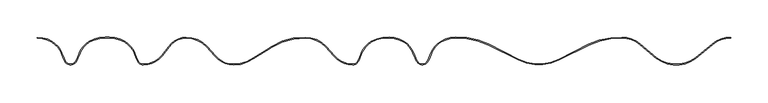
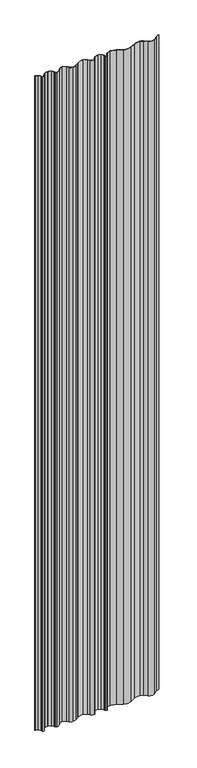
"""IFC4 building model written with IfcOpenShell, lengths in millimetres: plate geometry, Ritmica Couverture 928  : Ritmica Couverture 928 ."""

from ifc_helpers import new_model, si_unit, frame, origin, place, context, project, spatial, polyline, circle_curve, source, transform, mapped, element, save
from ifc_brep_helpers import plane_surface, cylinder_surface, revolved_surface, advanced_brep


def plate_113459ed(model_context):
    return source(origin(), model_context, "Body", "AdvancedBrep", [
        advanced_brep(
        [(-444.4302446, 30.2811672, 5176.3809021), (-431.9836286, 15.5283219, 5176.3809021), (-429.1046615, 8.3328787, 5176.3809021), (-427.4452979, 4.8677923, 5176.3809021), (-411.4637013, 4.8619753, 5176.3809021), (-409.8018157, 8.3258528, 5176.3809021), (-406.9176114, 15.5191984, 5176.3809021), (-394.4602592, 30.2629791, 5176.3809021), (-373.3665492, 36.0482488, 5176.3809021), (-368.0278773, 36.0482488, 5176.3809021), (-346.9383844, 30.2456821, 5176.3809021), (-334.4917684, 15.4928368, 5176.3809021), (-331.6128013, 8.2973936, 5176.3809021), (-329.9534377, 4.8323072, 5176.3809021), (-321.9644706, -0.2017286, 5176.3809021), (-296.9888452, 11.8248101, 5176.3809021), (-287.4386892, 23.807533, 5176.3809021), (-264.9602063, 35.7855504, 5176.3809021), (-237.4962028, 23.7813753, 5176.3809021), (-226.3924296, 11.7911348, 5176.3809021), (-201.4255657, -0.253582, 5176.3809021), (-174.6923281, 8.160429, 5176.3809021), (-157.3593244, 19.2912838, 5176.3809021), (-149.9257866, 23.6861251, 5176.3809021), (-105.747615, 35.8686526, 5176.3809021), (-78.2836116, 23.8644776, 5176.3809021), (-67.1798385, 11.8742372, 5176.3809021), (-42.2097646, -0.1704801, 5176.3809021), (-34.2203451, 4.857739, 5176.3809021), (-32.5584593, 8.3216167, 5176.3809021), (-29.674242, 15.5149945, 5176.3809021), (-17.2169044, 30.2587419, 5176.3809021), (6.5461114, 35.9566723, 5176.3809021), (26.0848579, 30.4474107, 5176.3809021), (38.5314739, 15.6945655, 5176.3809021), (41.410441, 8.4991222, 5176.3809021), (43.0698047, 5.0340358, 5176.3809021), (59.0514012, 5.0282188, 5176.3809021), (60.7132869, 8.4920964, 5176.3809021), (63.5974912, 15.6854419, 5176.3809021), (76.0548434, 30.4292226, 5176.3809021), (95.5975949, 35.9242593, 5176.3809021), (139.3425473, 26.7427576, 5176.3809021), (179.8736188, 6.3460909, 5176.3809021), (233.7774888, 6.326471, 5176.3809021), (274.3233975, 26.6936273, 5176.3809021), (318.0750221, 35.843282, 5176.3809021), (341.83917, 27.2314209, 5176.3809021), (364.2633956, 8.5356297, 5176.3809021), (417.1208498, 8.5163906, 5176.3809021), (439.8609935, 27.195853, 5176.3809021), (463.6317682, 35.7904123, 5176.3809021), (463.6317682, 36.7904124, 5176.3809021), (439.2211878, 27.9643897, 5176.3809021), (416.5014094, 9.3018814, 5176.3809021), (364.8834077, 9.3206693, 5176.3809021), (342.479535, 27.9994916, 5176.3809021), (318.0931528, 36.8432713, 5176.3809021), (273.882295, 27.5911262, 5176.3809021), (233.3286151, 7.2200662, 5176.3809021), (180.3231429, 7.2393591, 5176.3809021), (139.7843031, 27.6399351, 5176.3809021), (95.5801931, 36.9242616, 5176.3809021), (75.5333761, 31.2824939, 5176.3809021), (62.6692321, 16.0573763, 5176.3809021), (59.7974032, 8.8948956, 5176.3809021), (58.1497994, 5.4607858, 5176.3809021), (43.9717211, 5.4659464, 5176.3809021), (42.3266177, 8.9012546, 5176.3809021), (39.4600035, 16.065824, 5176.3809021), (26.6069462, 31.3003021, 5176.3809021), (6.5788504, 36.9566468, 5176.3809021), (-17.7328786, 31.1153693, 5176.3809021), (-30.6024869, 15.8869639, 5176.3809021), (-33.4743429, 8.724416, 5176.3809021), (-35.1219469, 5.290306, 5176.3809021), (-42.2097628, 0.8295199, 5176.3809021), (-66.4203948, 12.5259117, 5176.3809021), (-77.5499027, 24.5439416, 5176.3809021), (-105.7362544, 36.868647, 5176.3809021), (-150.4460781, 24.5402159, 5176.3809021), (-157.8841427, 20.1426983, 5176.3809021), (-175.2477974, 8.9921601, 5176.3809021), (-201.4270073, 0.7464186, 5176.3809021), (-225.6330756, 12.4429063, 5176.3809021), (-236.7624939, 24.4608393, 5176.3809021), (-264.9598423, 36.7855503, 5176.3809021), (-288.2459339, 24.3991366, 5176.3809021), (-297.7708595, 12.4480706, 5176.3809021), (-321.9641067, 0.7982713, 5176.3809021), (-329.0515212, 5.2642178, 5176.3809021), (-330.6966247, 8.699526, 5176.3809021), (-333.5638307, 15.8655747, 5176.3809021), (-346.4204051, 31.1011119, 5176.3809021), (-368.0275134, 37.0463056, 5176.3809021), (-373.3663683, 37.0482488, 5176.3809021), (-394.9762369, 31.1196045, 5176.3809021), (-407.8458704, 15.8911327, 5176.3809021), (-410.7176994, 8.7286521, 5176.3809021), (-412.3653031, 5.2945423, 5176.3809021), (-426.5433815, 5.2997028, 5176.3809021), (-428.1884849, 8.7350111, 5176.3809021), (-431.0550991, 15.8995804, 5176.3809021), (-443.9081563, 31.1340586, 5176.3809021), (-463.9686268, 36.7904286, 5176.3809021), (-463.9686268, 35.7904286, 5176.3809021), (-444.4302446, 30.2811672, 0.0), (-463.9686268, 35.7904286, 0.0), (-463.9686268, 36.7904286, 0.0), (-443.9081563, 31.1340586, 0.0), (-431.0550991, 15.8995804, 0.0), (-428.1884849, 8.7350111, 0.0), (-426.5433815, 5.2997028, 0.0), (-412.3653031, 5.2945423, 0.0), (-410.7176994, 8.7286521, 0.0), (-407.8458704, 15.8911327, 0.0), (-394.9762369, 31.1196045, 0.0), (-373.3663683, 37.0482488, 0.0), (-368.0278773, 37.0482488, 0.0), (-346.4204051, 31.1011119, 0.0), (-333.5638307, 15.8655747, 0.0), (-330.6966247, 8.699526, 0.0), (-329.0515212, 5.2642178, 0.0), (-321.9641067, 0.7982713, 0.0), (-297.7708595, 12.4480706, 0.0), (-288.2459339, 24.3991366, 0.0), (-264.9598423, 36.7855503, 0.0), (-236.7624939, 24.4608393, 0.0), (-225.6330756, 12.4429063, 0.0), (-201.4270073, 0.7464186, 0.0), (-175.2477974, 8.9921601, 0.0), (-157.8841427, 20.1426983, 0.0), (-150.4460781, 24.5402159, 0.0), (-105.7362544, 36.868647, 0.0), (-77.5499027, 24.5439416, 0.0), (-66.4203948, 12.5259117, 0.0), (-42.2097628, 0.8295199, 0.0), (-35.1219469, 5.290306, 0.0), (-33.4743429, 8.724416, 0.0), (-30.6024869, 15.8869639, 0.0), (-17.7328786, 31.1153693, 0.0), (6.5788504, 36.9566468, 0.0), (26.6069462, 31.3003021, 0.0), (39.4600035, 16.065824, 0.0), (42.3266177, 8.9012546, 0.0), (43.9717211, 5.4659464, 0.0), (58.1497994, 5.4607858, 0.0), (59.7974032, 8.8948956, 0.0), (62.6692321, 16.0573763, 0.0), (75.5333761, 31.2824939, 0.0), (95.5801931, 36.9242616, 0.0), (139.7843031, 27.6399351, 0.0), (180.3231429, 7.2393591, 0.0), (233.3286151, 7.2200662, 0.0), (273.882295, 27.5911262, 0.0), (318.0931528, 36.8432713, 0.0), (342.479535, 27.9994916, 0.0), (364.8834077, 9.3206693, 0.0), (416.5014094, 9.3018814, 0.0), (439.2211878, 27.9643897, 0.0), (463.6317682, 36.7904124, 0.0), (463.6317682, 35.7904123, 0.0), (439.8609935, 27.195853, 0.0), (417.1208498, 8.5163906, 0.0), (364.2633956, 8.5356297, 0.0), (341.83917, 27.2314209, 0.0), (318.0750221, 35.843282, 0.0), (274.3233975, 26.6936273, 0.0), (233.7774888, 6.326471, 0.0), (179.8736188, 6.3460909, 0.0), (139.3425473, 26.7427576, 0.0), (95.5975949, 35.9242593, 0.0), (76.0548434, 30.4292226, 0.0), (63.5974912, 15.6854419, 0.0), (60.7132869, 8.4920964, 0.0), (59.0514012, 5.0282188, 0.0), (43.0698047, 5.0340358, 0.0), (41.410441, 8.4991222, 0.0), (38.5314739, 15.6945655, 0.0), (26.0848579, 30.4474107, 0.0), (6.5461114, 35.9566723, 0.0), (-17.2169044, 30.2587419, 0.0), (-29.674242, 15.5149945, 0.0), (-32.5584593, 8.3216167, 0.0), (-34.2203451, 4.857739, 0.0), (-42.2097646, -0.1704801, 0.0), (-67.1798385, 11.8742372, 0.0), (-78.2836116, 23.8644776, 0.0), (-105.747615, 35.8686526, 0.0), (-149.9257866, 23.6861251, 0.0), (-157.3593244, 19.2912838, 0.0), (-174.6923281, 8.160429, 0.0), (-201.4255657, -0.253582, 0.0), (-226.3924296, 11.7911348, 0.0), (-237.4962028, 23.7813753, 0.0), (-264.9602063, 35.7855504, 0.0), (-287.4386892, 23.807533, 0.0), (-296.9888452, 11.8248101, 0.0), (-321.9644706, -0.2017286, 0.0), (-329.9534377, 4.8323072, 0.0), (-331.6128013, 8.2973936, 0.0), (-334.4917684, 15.4928368, 0.0), (-346.9383844, 30.2456821, 0.0), (-368.0278773, 36.0463056, 0.0), (-373.3665492, 36.0482488, 0.0), (-394.4602592, 30.2629791, 0.0), (-406.9176114, 15.5191984, 0.0), (-409.8018157, 8.3258528, 0.0), (-411.4637013, 4.8619753, 0.0), (-427.4452979, 4.8677923, 0.0), (-429.1046615, 8.3328787, 0.0), (-431.9836286, 15.5283219, 0.0)],
        [
            (0, 1, circle_curve(frame((-460.4148551, 4.1684649, 5176.3809021), z_axis=(0.0, 0.0, -1.0), x_axis=(-1.0, 0.0, 0.0)), 30.6166783)),
            (1, 2),
            (2, 3),
            (3, 4, circle_curve(frame((-419.4531055, 8.6951004, 5176.3809021), z_axis=(0.0, 0.0, 1.0), x_axis=(-1.0, 0.0, 0.0)), 8.8613445)),
            (4, 5),
            (5, 6),
            (6, 7, circle_curve(frame((-378.4946619, 4.1386476, 5176.3809021), z_axis=(0.0, 0.0, -1.0), x_axis=(-1.0, 0.0, 0.0)), 30.6166783)),
            (7, 8, circle_curve(frame((-373.381579, -5.2445433, 5176.3809021), z_axis=(0.0, 0.0, -1.0), x_axis=(-1.0, 0.0, 0.0)), 41.2927949)),
            (8, 9),
            (9, 10, circle_curve(frame((-368.0429071, -5.2464865, 5176.3809021), z_axis=(0.0, 0.0, -1.0), x_axis=(-1.0, 0.0, 0.0)), 41.2927949)),
            (10, 11, circle_curve(frame((-363.1637949, 3.9298228, 5176.3809021), z_axis=(0.0, 0.0, -1.0), x_axis=(-1.0, 0.0, 0.0)), 30.9158276)),
            (11, 12),
            (12, 13),
            (13, 14, circle_curve(frame((-321.9612453, 8.6596153, 5176.3809021), z_axis=(0.0, 0.0, 1.0), x_axis=(-1.0, 0.0, 0.0)), 8.8613445)),
            (14, 15, circle_curve(frame((-321.9528514, 31.7209684, 5176.3809021), z_axis=(0.0, 0.0, 1.0), x_axis=(-1.0, 0.0, 0.0)), 31.9226992)),
            (15, 16),
            (16, 17, circle_curve(frame((-264.9700565, 8.722964, 5176.3809021), z_axis=(0.0, 0.0, -1.0), x_axis=(-1.0, 0.0, 0.0)), 27.0625882)),
            (17, 18, circle_curve(frame((-264.9738374, -1.6647716, 5176.3809021), z_axis=(0.0, 0.0, -1.0), x_axis=(-1.0, 0.0, 0.0)), 37.4503244)),
            (18, 19),
            (19, 20, circle_curve(frame((-201.4139464, 31.669115, 5176.3809021), z_axis=(0.0, 0.0, 1.0), x_axis=(-1.0, 0.0, 0.0)), 31.9226992)),
            (20, 21, circle_curve(frame((-201.5791622, 46.9102404, 5176.3809021), z_axis=(0.0, 0.0, 1.0), x_axis=(-1.0, 0.0, 0.0)), 47.1640725)),
            (21, 22),
            (22, 23),
            (23, 24, circle_curve(frame((-107.5247522, -43.880951, 5176.3809021), z_axis=(0.0, 0.0, -1.0), x_axis=(-1.0, 0.0, 0.0)), 79.769402)),
            (24, 25, circle_curve(frame((-105.7612462, -1.5816693, 5176.3809021), z_axis=(0.0, 0.0, -1.0), x_axis=(-1.0, 0.0, 0.0)), 37.4503244)),
            (25, 26),
            (26, 27, circle_curve(frame((-42.2097086, 31.7349015, 5176.3809021), z_axis=(0.0, 0.0, 1.0), x_axis=(-1.0, 0.0, 0.0)), 31.9053816)),
            (27, 28, circle_curve(frame((-42.209749, 8.6908643, 5176.3809021), z_axis=(0.0, 0.0, 1.0), x_axis=(-1.0, 0.0, 0.0)), 8.8613444)),
            (28, 29),
            (29, 30),
            (30, 31, circle_curve(frame((-1.2513055, 4.1344114, 5176.3809021), z_axis=(0.0, 0.0, -1.0), x_axis=(-1.0, 0.0, 0.0)), 30.6166783)),
            (31, 32, circle_curve(frame((3.8617775, -5.2487796, 5176.3809021), z_axis=(0.0, 0.0, -1.0), x_axis=(-1.0, 0.0, 0.0)), 41.2927948)),
            (32, 33, circle_curve(frame((6.5324806, -1.4936497, 5176.3809021), z_axis=(0.0, 0.0, -1.0), x_axis=(-1.0, 0.0, 0.0)), 37.4503244)),
            (33, 34, circle_curve(frame((10.1002475, 4.3347085, 5176.3809021), z_axis=(0.0, 0.0, -1.0), x_axis=(-1.0, 0.0, 0.0)), 30.6166783)),
            (34, 35),
            (35, 36),
            (36, 37, circle_curve(frame((51.0619971, 8.861344, 5176.3809021), z_axis=(0.0, 0.0, 1.0), x_axis=(-1.0, 0.0, 0.0)), 8.8613445)),
            (37, 38),
            (38, 39),
            (39, 40, circle_curve(frame((92.0204406, 4.3048912, 5176.3809021), z_axis=(0.0, 0.0, -1.0), x_axis=(-1.0, 0.0, 0.0)), 30.6166783)),
            (40, 41, circle_curve(frame((95.5839638, -1.5260626, 5176.3809021), z_axis=(0.0, 0.0, -1.0), x_axis=(-1.0, 0.0, 0.0)), 37.4503244)),
            (41, 42, circle_curve(frame((98.8645428, -57.3118982, 5176.3809021), z_axis=(0.0, 0.0, -1.0), x_axis=(-1.0, 0.0, 0.0)), 93.293376)),
            (42, 43),
            (43, 44, circle_curve(frame((206.8450653, 59.9421829, 5176.3809021), z_axis=(0.0, 0.0, 1.0), x_axis=(-1.0, 0.0, 0.0)), 60.0)),
            (44, 45),
            (45, 46, circle_curve(frame((314.7402029, -57.3904726, 5176.3809021), z_axis=(0.0, 0.0, -1.0), x_axis=(-1.0, 0.0, 0.0)), 93.293376)),
            (46, 47, circle_curve(frame((318.061507, -1.2881358, 5176.3809021), z_axis=(0.0, 0.0, -1.0), x_axis=(-1.0, 0.0, 0.0)), 37.1314203)),
            (47, 48),
            (48, 49, circle_curve(frame((390.7049909, 43.8801828, 5176.3809021), z_axis=(0.0, 0.0, 1.0), x_axis=(-1.0, 0.0, 0.0)), 44.1406321)),
            (49, 50),
            (50, 51, circle_curve(frame((463.6178891, -1.3410054, 5176.3809021), z_axis=(0.0, 0.0, -1.0), x_axis=(-1.0, 0.0, 0.0)), 37.1314203)),
            (51, 52),
            (52, 53, circle_curve(frame((463.6178891, -1.3410054, 5176.3809021), z_axis=(0.0, 0.0, 1.0), x_axis=(-1.0, 0.0, 0.0)), 38.1314203)),
            (53, 54),
            (54, 55, circle_curve(frame((390.7049909, 43.8801828, 5176.3809021), z_axis=(0.0, 0.0, -1.0), x_axis=(-1.0, 0.0, 0.0)), 43.1406321)),
            (55, 56),
            (56, 57, circle_curve(frame((318.061507, -1.2881358, 5176.3809021), z_axis=(0.0, 0.0, 1.0), x_axis=(-1.0, 0.0, 0.0)), 38.1314203)),
            (57, 58, circle_curve(frame((314.7402029, -57.3904726, 5176.3809021), z_axis=(0.0, 0.0, 1.0), x_axis=(-1.0, 0.0, 0.0)), 94.293376)),
            (58, 59),
            (59, 60, circle_curve(frame((206.8450653, 59.9421829, 5176.3809021), z_axis=(0.0, 0.0, -1.0), x_axis=(-1.0, 0.0, 0.0)), 59.0)),
            (60, 61),
            (61, 62, circle_curve(frame((98.8645428, -57.3118982, 5176.3809021), z_axis=(0.0, 0.0, 1.0), x_axis=(-1.0, 0.0, 0.0)), 94.293376)),
            (62, 63, circle_curve(frame((95.5839638, -1.5260626, 5176.3809021), z_axis=(0.0, 0.0, 1.0), x_axis=(-1.0, 0.0, 0.0)), 38.4503244)),
            (63, 64, circle_curve(frame((92.0204406, 4.3048912, 5176.3809021), z_axis=(0.0, 0.0, 1.0), x_axis=(-1.0, 0.0, 0.0)), 31.6166783)),
            (64, 65),
            (65, 66),
            (66, 67, circle_curve(frame((51.0619971, 8.861344, 5176.3809021), z_axis=(0.0, 0.0, -1.0), x_axis=(-1.0, 0.0, 0.0)), 7.8613445)),
            (67, 68),
            (68, 69),
            (69, 70, circle_curve(frame((10.1002475, 4.3347085, 5176.3809021), z_axis=(0.0, 0.0, 1.0), x_axis=(-1.0, 0.0, 0.0)), 31.6166783)),
            (70, 71, circle_curve(frame((6.5324806, -1.4936497, 5176.3809021), z_axis=(0.0, 0.0, 1.0), x_axis=(-1.0, 0.0, 0.0)), 38.4503244)),
            (71, 72, circle_curve(frame((3.8617775, -5.2487796, 5176.3809021), z_axis=(0.0, 0.0, 1.0), x_axis=(-1.0, 0.0, 0.0)), 42.2927948)),
            (72, 73, circle_curve(frame((-1.2513055, 4.1344114, 5176.3809021), z_axis=(0.0, 0.0, 1.0), x_axis=(-1.0, 0.0, 0.0)), 31.6166782)),
            (73, 74),
            (74, 75),
            (75, 76, circle_curve(frame((-42.209749, 8.6908643, 5176.3809021), z_axis=(0.0, 0.0, -1.0), x_axis=(-1.0, 0.0, 0.0)), 7.8613444)),
            (76, 77, circle_curve(frame((-42.2097086, 31.7349015, 5176.3809021), z_axis=(0.0, 0.0, -1.0), x_axis=(-1.0, 0.0, 0.0)), 30.9053816)),
            (77, 78),
            (78, 79, circle_curve(frame((-105.7612462, -1.5816693, 5176.3809021), z_axis=(0.0, 0.0, 1.0), x_axis=(-1.0, 0.0, 0.0)), 38.4503244)),
            (79, 80, circle_curve(frame((-107.5247522, -43.880951, 5176.3809021), z_axis=(0.0, 0.0, 1.0), x_axis=(-1.0, 0.0, 0.0)), 80.769402)),
            (80, 81),
            (81, 82),
            (82, 83, circle_curve(frame((-201.5791622, 46.9102404, 5176.3809021), z_axis=(0.0, 0.0, -1.0), x_axis=(-1.0, 0.0, 0.0)), 46.1640725)),
            (83, 84, circle_curve(frame((-201.4139464, 31.669115, 5176.3809021), z_axis=(0.0, 0.0, -1.0), x_axis=(-1.0, 0.0, 0.0)), 30.9226992)),
            (84, 85),
            (85, 86, circle_curve(frame((-264.9738374, -1.6647716, 5176.3809021), z_axis=(0.0, 0.0, 1.0), x_axis=(-1.0, 0.0, 0.0)), 38.4503244)),
            (86, 87, circle_curve(frame((-264.9700565, 8.722964, 5176.3809021), z_axis=(0.0, 0.0, 1.0), x_axis=(-1.0, 0.0, 0.0)), 28.0625882)),
            (87, 88),
            (88, 89, circle_curve(frame((-321.9528514, 31.7209684, 5176.3809021), z_axis=(0.0, 0.0, -1.0), x_axis=(-1.0, 0.0, 0.0)), 30.9226992)),
            (89, 90, circle_curve(frame((-321.9612453, 8.6596153, 5176.3809021), z_axis=(0.0, 0.0, -1.0), x_axis=(-1.0, 0.0, 0.0)), 7.8613445)),
            (90, 91),
            (91, 92),
            (92, 93, circle_curve(frame((-363.1637949, 3.9298228, 5176.3809021), z_axis=(0.0, 0.0, 1.0), x_axis=(-1.0, 0.0, 0.0)), 31.9158276)),
            (93, 94, circle_curve(frame((-368.0429071, -5.2464865, 5176.3809021), z_axis=(0.0, 0.0, 1.0), x_axis=(-1.0, 0.0, 0.0)), 42.2927949)),
            (94, 95),
            (95, 96, circle_curve(frame((-373.381579, -5.2445433, 5176.3809021), z_axis=(0.0, 0.0, 1.0), x_axis=(-1.0, 0.0, 0.0)), 42.2927949)),
            (96, 97, circle_curve(frame((-378.4946619, 4.1386476, 5176.3809021), z_axis=(0.0, 0.0, 1.0), x_axis=(-1.0, 0.0, 0.0)), 31.6166783)),
            (97, 98),
            (98, 99),
            (99, 100, circle_curve(frame((-419.4531055, 8.6951004, 5176.3809021), z_axis=(0.0, 0.0, -1.0), x_axis=(-1.0, 0.0, 0.0)), 7.8613445)),
            (100, 101),
            (101, 102),
            (102, 103, circle_curve(frame((-460.4148551, 4.1684649, 5176.3809021), z_axis=(0.0, 0.0, 1.0), x_axis=(-1.0, 0.0, 0.0)), 31.6166783)),
            (103, 104, circle_curve(frame((-463.982622, -1.6598932, 5176.3809021), z_axis=(0.0, 0.0, 1.0), x_axis=(-1.0, 0.0, 0.0)), 38.4503244)),
            (104, 105),
            (105, 0, circle_curve(frame((-463.982622, -1.6598932, 5176.3809021), z_axis=(0.0, 0.0, -1.0), x_axis=(-1.0, 0.0, 0.0)), 37.4503244)),
            (106, 107, circle_curve(frame((-463.982622, -1.6598932, 0.0), z_axis=(0.0, 0.0, 1.0), x_axis=(-1.0, 0.0, 0.0)), 37.4503244)),
            (107, 108),
            (108, 109, circle_curve(frame((-463.982622, -1.6598932, 0.0), z_axis=(0.0, 0.0, -1.0), x_axis=(-1.0, 0.0, 0.0)), 38.4503244)),
            (109, 110, circle_curve(frame((-460.4148551, 4.1684649, 0.0), z_axis=(0.0, 0.0, -1.0), x_axis=(-1.0, 0.0, 0.0)), 31.6166783)),
            (110, 111),
            (111, 112),
            (112, 113, circle_curve(frame((-419.4531055, 8.6951004, 0.0), z_axis=(0.0, 0.0, 1.0), x_axis=(-1.0, 0.0, 0.0)), 7.8613445)),
            (113, 114),
            (114, 115),
            (115, 116, circle_curve(frame((-378.4946619, 4.1386476, 0.0), z_axis=(0.0, 0.0, -1.0), x_axis=(-1.0, 0.0, 0.0)), 31.6166783)),
            (116, 117, circle_curve(frame((-373.381579, -5.2445433, 0.0), z_axis=(0.0, 0.0, -1.0), x_axis=(-1.0, 0.0, 0.0)), 42.2927949)),
            (117, 118),
            (118, 119, circle_curve(frame((-368.0429071, -5.2464865, 0.0), z_axis=(0.0, 0.0, -1.0), x_axis=(-1.0, 0.0, 0.0)), 42.2927949)),
            (119, 120, circle_curve(frame((-363.1637949, 3.9298228, 0.0), z_axis=(0.0, 0.0, -1.0), x_axis=(-1.0, 0.0, 0.0)), 31.9158276)),
            (120, 121),
            (121, 122),
            (122, 123, circle_curve(frame((-321.9612453, 8.6596153, 0.0), z_axis=(0.0, 0.0, 1.0), x_axis=(-1.0, 0.0, 0.0)), 7.8613445)),
            (123, 124, circle_curve(frame((-321.9528514, 31.7209684, 0.0), z_axis=(0.0, 0.0, 1.0), x_axis=(-1.0, 0.0, 0.0)), 30.9226992)),
            (124, 125),
            (125, 126, circle_curve(frame((-264.9700565, 8.722964, 0.0), z_axis=(0.0, 0.0, -1.0), x_axis=(-1.0, 0.0, 0.0)), 28.0625882)),
            (126, 127, circle_curve(frame((-264.9738374, -1.6647716, 0.0), z_axis=(0.0, 0.0, -1.0), x_axis=(-1.0, 0.0, 0.0)), 38.4503244)),
            (127, 128),
            (128, 129, circle_curve(frame((-201.4139464, 31.669115, 0.0), z_axis=(0.0, 0.0, 1.0), x_axis=(-1.0, 0.0, 0.0)), 30.9226992)),
            (129, 130, circle_curve(frame((-201.5791622, 46.9102404, 0.0), z_axis=(0.0, 0.0, 1.0), x_axis=(-1.0, 0.0, 0.0)), 46.1640725)),
            (130, 131),
            (131, 132),
            (132, 133, circle_curve(frame((-107.5247522, -43.880951, 0.0), z_axis=(0.0, 0.0, -1.0), x_axis=(-1.0, 0.0, 0.0)), 80.769402)),
            (133, 134, circle_curve(frame((-105.7612462, -1.5816693, 0.0), z_axis=(0.0, 0.0, -1.0), x_axis=(-1.0, 0.0, 0.0)), 38.4503244)),
            (134, 135),
            (135, 136, circle_curve(frame((-42.2097086, 31.7349015, 0.0), z_axis=(0.0, 0.0, 1.0), x_axis=(-1.0, 0.0, 0.0)), 30.9053816)),
            (136, 137, circle_curve(frame((-42.209749, 8.6908643, 0.0), z_axis=(0.0, 0.0, 1.0), x_axis=(-1.0, 0.0, 0.0)), 7.8613444)),
            (137, 138),
            (138, 139),
            (139, 140, circle_curve(frame((-1.2513055, 4.1344114, 0.0), z_axis=(0.0, 0.0, -1.0), x_axis=(-1.0, 0.0, 0.0)), 31.6166782)),
            (140, 141, circle_curve(frame((3.8617775, -5.2487796, 0.0), z_axis=(0.0, 0.0, -1.0), x_axis=(-1.0, 0.0, 0.0)), 42.2927948)),
            (141, 142, circle_curve(frame((6.5324806, -1.4936497, 0.0), z_axis=(0.0, 0.0, -1.0), x_axis=(-1.0, 0.0, 0.0)), 38.4503244)),
            (142, 143, circle_curve(frame((10.1002475, 4.3347085, 0.0), z_axis=(0.0, 0.0, -1.0), x_axis=(-1.0, 0.0, 0.0)), 31.6166783)),
            (143, 144),
            (144, 145),
            (145, 146, circle_curve(frame((51.0619971, 8.861344, 0.0), z_axis=(0.0, 0.0, 1.0), x_axis=(-1.0, 0.0, 0.0)), 7.8613445)),
            (146, 147),
            (147, 148),
            (148, 149, circle_curve(frame((92.0204406, 4.3048912, 0.0), z_axis=(0.0, 0.0, -1.0), x_axis=(-1.0, 0.0, 0.0)), 31.6166783)),
            (149, 150, circle_curve(frame((95.5839638, -1.5260626, 0.0), z_axis=(0.0, 0.0, -1.0), x_axis=(-1.0, 0.0, 0.0)), 38.4503244)),
            (150, 151, circle_curve(frame((98.8645428, -57.3118982, 0.0), z_axis=(0.0, 0.0, -1.0), x_axis=(-1.0, 0.0, 0.0)), 94.293376)),
            (151, 152),
            (152, 153, circle_curve(frame((206.8450653, 59.9421829, 0.0), z_axis=(0.0, 0.0, 1.0), x_axis=(-1.0, 0.0, 0.0)), 59.0)),
            (153, 154),
            (154, 155, circle_curve(frame((314.7402029, -57.3904726, 0.0), z_axis=(0.0, 0.0, -1.0), x_axis=(-1.0, 0.0, 0.0)), 94.293376)),
            (155, 156, circle_curve(frame((318.061507, -1.2881358, 0.0), z_axis=(0.0, 0.0, -1.0), x_axis=(-1.0, 0.0, 0.0)), 38.1314203)),
            (156, 157),
            (157, 158, circle_curve(frame((390.7049909, 43.8801828, 0.0), z_axis=(0.0, 0.0, 1.0), x_axis=(-1.0, 0.0, 0.0)), 43.1406321)),
            (158, 159),
            (159, 160, circle_curve(frame((463.6178891, -1.3410054, 0.0), z_axis=(0.0, 0.0, -1.0), x_axis=(-1.0, 0.0, 0.0)), 38.1314203)),
            (160, 161),
            (161, 162, circle_curve(frame((463.6178891, -1.3410054, 0.0), z_axis=(0.0, 0.0, 1.0), x_axis=(-1.0, 0.0, 0.0)), 37.1314203)),
            (162, 163),
            (163, 164, circle_curve(frame((390.7049909, 43.8801828, 0.0), z_axis=(0.0, 0.0, -1.0), x_axis=(-1.0, 0.0, 0.0)), 44.1406321)),
            (164, 165),
            (165, 166, circle_curve(frame((318.061507, -1.2881358, 0.0), z_axis=(0.0, 0.0, 1.0), x_axis=(-1.0, 0.0, 0.0)), 37.1314203)),
            (166, 167, circle_curve(frame((314.7402029, -57.3904726, 0.0), z_axis=(0.0, 0.0, 1.0), x_axis=(-1.0, 0.0, 0.0)), 93.293376)),
            (167, 168),
            (168, 169, circle_curve(frame((206.8450653, 59.9421829, 0.0), z_axis=(0.0, 0.0, -1.0), x_axis=(-1.0, 0.0, 0.0)), 60.0)),
            (169, 170),
            (170, 171, circle_curve(frame((98.8645428, -57.3118982, 0.0), z_axis=(0.0, 0.0, 1.0), x_axis=(-1.0, 0.0, 0.0)), 93.293376)),
            (171, 172, circle_curve(frame((95.5839638, -1.5260626, 0.0), z_axis=(0.0, 0.0, 1.0), x_axis=(-1.0, 0.0, 0.0)), 37.4503244)),
            (172, 173, circle_curve(frame((92.0204406, 4.3048912, 0.0), z_axis=(0.0, 0.0, 1.0), x_axis=(-1.0, 0.0, 0.0)), 30.6166783)),
            (173, 174),
            (174, 175),
            (175, 176, circle_curve(frame((51.0619971, 8.861344, 0.0), z_axis=(0.0, 0.0, -1.0), x_axis=(-1.0, 0.0, 0.0)), 8.8613445)),
            (176, 177),
            (177, 178),
            (178, 179, circle_curve(frame((10.1002475, 4.3347085, 0.0), z_axis=(0.0, 0.0, 1.0), x_axis=(-1.0, 0.0, 0.0)), 30.6166783)),
            (179, 180, circle_curve(frame((6.5324806, -1.4936497, 0.0), z_axis=(0.0, 0.0, 1.0), x_axis=(-1.0, 0.0, 0.0)), 37.4503244)),
            (180, 181, circle_curve(frame((3.8617775, -5.2487796, 0.0), z_axis=(0.0, 0.0, 1.0), x_axis=(-1.0, 0.0, 0.0)), 41.2927948)),
            (181, 182, circle_curve(frame((-1.2513055, 4.1344114, 0.0), z_axis=(0.0, 0.0, 1.0), x_axis=(-1.0, 0.0, 0.0)), 30.6166783)),
            (182, 183),
            (183, 184),
            (184, 185, circle_curve(frame((-42.209749, 8.6908643, 0.0), z_axis=(0.0, 0.0, -1.0), x_axis=(-1.0, 0.0, 0.0)), 8.8613444)),
            (185, 186, circle_curve(frame((-42.2097086, 31.7349015, 0.0), z_axis=(0.0, 0.0, -1.0), x_axis=(-1.0, 0.0, 0.0)), 31.9053816)),
            (186, 187),
            (187, 188, circle_curve(frame((-105.7612462, -1.5816693, 0.0), z_axis=(0.0, 0.0, 1.0), x_axis=(-1.0, 0.0, 0.0)), 37.4503244)),
            (188, 189, circle_curve(frame((-107.5247522, -43.880951, 0.0), z_axis=(0.0, 0.0, 1.0), x_axis=(-1.0, 0.0, 0.0)), 79.769402)),
            (189, 190),
            (190, 191),
            (191, 192, circle_curve(frame((-201.5791622, 46.9102404, 0.0), z_axis=(0.0, 0.0, -1.0), x_axis=(-1.0, 0.0, 0.0)), 47.1640725)),
            (192, 193, circle_curve(frame((-201.4139464, 31.669115, 0.0), z_axis=(0.0, 0.0, -1.0), x_axis=(-1.0, 0.0, 0.0)), 31.9226992)),
            (193, 194),
            (194, 195, circle_curve(frame((-264.9738374, -1.6647716, 0.0), z_axis=(0.0, 0.0, 1.0), x_axis=(-1.0, 0.0, 0.0)), 37.4503244)),
            (195, 196, circle_curve(frame((-264.9700565, 8.722964, 0.0), z_axis=(0.0, 0.0, 1.0), x_axis=(-1.0, 0.0, 0.0)), 27.0625882)),
            (196, 197),
            (197, 198, circle_curve(frame((-321.9528514, 31.7209684, 0.0), z_axis=(0.0, 0.0, -1.0), x_axis=(-1.0, 0.0, 0.0)), 31.9226992)),
            (198, 199, circle_curve(frame((-321.9612453, 8.6596153, 0.0), z_axis=(0.0, 0.0, -1.0), x_axis=(-1.0, 0.0, 0.0)), 8.8613445)),
            (199, 200),
            (200, 201),
            (201, 202, circle_curve(frame((-363.1637949, 3.9298228, 0.0), z_axis=(0.0, 0.0, 1.0), x_axis=(-1.0, 0.0, 0.0)), 30.9158276)),
            (202, 203, circle_curve(frame((-368.0429071, -5.2464865, 0.0), z_axis=(0.0, 0.0, 1.0), x_axis=(-1.0, 0.0, 0.0)), 41.2927949)),
            (203, 204),
            (204, 205, circle_curve(frame((-373.381579, -5.2445433, 0.0), z_axis=(0.0, 0.0, 1.0), x_axis=(-1.0, 0.0, 0.0)), 41.2927949)),
            (205, 206, circle_curve(frame((-378.4946619, 4.1386476, 0.0), z_axis=(0.0, 0.0, 1.0), x_axis=(-1.0, 0.0, 0.0)), 30.6166783)),
            (206, 207),
            (207, 208),
            (208, 209, circle_curve(frame((-419.4531055, 8.6951004, 0.0), z_axis=(0.0, 0.0, -1.0), x_axis=(-1.0, 0.0, 0.0)), 8.8613445)),
            (209, 210),
            (210, 211),
            (211, 106, circle_curve(frame((-460.4148551, 4.1684649, 0.0), z_axis=(0.0, 0.0, 1.0), x_axis=(-1.0, 0.0, 0.0)), 30.6166783)),
            (0, 106),
            (211, 1),
            (210, 2),
            (209, 3),
            (208, 4),
            (207, 5),
            (206, 6),
            (205, 7),
            (204, 8),
            (203, 9),
            (202, 10),
            (201, 11),
            (200, 12),
            (199, 13),
            (198, 14),
            (197, 15),
            (196, 16),
            (195, 17),
            (194, 18),
            (193, 19),
            (192, 20),
            (191, 21),
            (190, 22),
            (189, 23),
            (188, 24),
            (187, 25),
            (186, 26),
            (185, 27),
            (184, 28),
            (183, 29),
            (182, 30),
            (181, 31),
            (180, 32),
            (179, 33),
            (178, 34),
            (177, 35),
            (176, 36),
            (175, 37),
            (174, 38),
            (173, 39),
            (172, 40),
            (171, 41),
            (170, 42),
            (169, 43),
            (168, 44),
            (167, 45),
            (166, 46),
            (165, 47),
            (164, 48),
            (163, 49),
            (162, 50),
            (161, 51),
            (160, 52),
            (159, 53),
            (158, 54),
            (157, 55),
            (156, 56),
            (155, 57),
            (154, 58),
            (153, 59),
            (152, 60),
            (151, 61),
            (150, 62),
            (149, 63),
            (148, 64),
            (147, 65),
            (146, 66),
            (145, 67),
            (144, 68),
            (143, 69),
            (142, 70),
            (141, 71),
            (140, 72),
            (139, 73),
            (138, 74),
            (137, 75),
            (136, 76),
            (135, 77),
            (134, 78),
            (133, 79),
            (132, 80),
            (131, 81),
            (130, 82),
            (129, 83),
            (128, 84),
            (127, 85),
            (126, 86),
            (125, 87),
            (124, 88),
            (123, 89),
            (122, 90),
            (121, 91),
            (120, 92),
            (119, 93),
            (118, 94),
            (117, 95),
            (116, 96),
            (115, 97),
            (114, 98),
            (113, 99),
            (112, 100),
            (111, 101),
            (110, 102),
            (109, 103),
            (108, 104),
            (107, 105),
        ],
        [
            plane_surface(frame((-491.0315334, 4.1684649, 5176.3809021), z_axis=(0.0, 0.0, 1.0), x_axis=(0.0, 1.0, 0.0))),
            plane_surface(frame((-491.0315334, 4.1684649, 0.0), z_axis=(0.0, 0.0, -1.0), x_axis=(0.0, -1.0, 0.0))),
            revolved_surface(polyline([(-491.0315334, 4.1684649, 0.0), (-491.0315334, 4.1684649, 5176.3809021)]), (-460.4148551, 4.1684649, 0.0), (0.0, 0.0, -1.0)),
            plane_surface(frame((-431.9836286, 15.5283219, 5176.3809021), z_axis=(-0.9284415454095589, -0.3714785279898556, 0.0), x_axis=(0.0, 0.0, -1.0))),
            plane_surface(frame((-429.1046615, 8.3328787, 5176.3809021), z_axis=(-0.9019164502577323, -0.43191054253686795, 0.0), x_axis=(0.0, 0.0, -1.0))),
            cylinder_surface(frame((-419.4531055, 8.6951004, 0.0), z_axis=(0.0, 0.0, 1.0), x_axis=(-1.0, 0.0, 0.0)), 8.8613445),
            plane_surface(frame((-411.4637013, 4.8619753, 5176.3809021), z_axis=(0.9016017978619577, -0.43256698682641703, 0.0), x_axis=(0.0, 0.0, -1.0))),
            plane_surface(frame((-409.8018157, 8.3258528, 5176.3809021), z_axis=(0.9281708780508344, -0.3721542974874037, 0.0), x_axis=(0.0, 0.0, -1.0))),
            revolved_surface(polyline([(-409.1113402, 4.1386476, 0.0), (-409.1113402, 4.1386476, 5176.3809021)]), (-378.4946619, 4.1386476, 0.0), (0.0, 0.0, -1.0)),
            revolved_surface(polyline([(-414.6743739, -5.2445433, 0.0), (-414.6743739, -5.2445433, 5176.3809021)]), (-373.381579, -5.2445433, 0.0), (0.0, 0.0, -1.0)),
            plane_surface(frame((-373.3665492, 36.0482488, 5176.3809021), z_axis=(0.0, -1.0, 0.0), x_axis=(0.0, 0.0, -1.0))),
            revolved_surface(polyline([(-409.33570199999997, -5.2464865, 0.0), (-409.33570199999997, -5.2464865, 5176.3809021)]), (-368.0429071, -5.2464865, 0.0), (0.0, 0.0, -1.0)),
            revolved_surface(polyline([(-394.0796225, 3.9298228, 0.0), (-394.0796225, 3.9298228, 5176.3809021)]), (-363.1637949, 3.9298228, 0.0), (0.0, 0.0, -1.0)),
            plane_surface(frame((-334.4917684, 15.4928368, 5176.3809021), z_axis=(-0.9284415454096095, -0.37147852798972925, 0.0), x_axis=(0.0, 0.0, -1.0))),
            plane_surface(frame((-331.6128013, 8.2973936, 5176.3809021), z_axis=(-0.901916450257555, -0.4319105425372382, 0.0), x_axis=(0.0, 0.0, -1.0))),
            cylinder_surface(frame((-321.9612453, 8.6596153, 0.0), z_axis=(0.0, 0.0, 1.0), x_axis=(-1.0, 0.0, 0.0)), 8.8613445),
            cylinder_surface(frame((-321.9528514, 31.7209684, 0.0), z_axis=(0.0, 0.0, 1.0), x_axis=(-1.0, 0.0, 0.0)), 31.9226992),
            plane_surface(frame((-296.9888452, 11.8248101, 5176.3809021), z_axis=(0.7820142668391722, -0.6232605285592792, 0.0), x_axis=(0.0, 0.0, -1.0))),
            revolved_surface(polyline([(-292.0326447, 8.722964, 0.0), (-292.0326447, 8.722964, 5176.3809021)]), (-264.9700565, 8.722964, 0.0), (0.0, 0.0, -1.0)),
            revolved_surface(polyline([(-302.4241618, -1.6647716, 0.0), (-302.4241618, -1.6647716, 5176.3809021)]), (-264.9738374, -1.6647716, 0.0), (0.0, 0.0, -1.0)),
            plane_surface(frame((-237.4962028, 23.7813753, 5176.3809021), z_axis=(-0.7337088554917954, -0.6794639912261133, 0.0), x_axis=(0.0, 0.0, -1.0))),
            cylinder_surface(frame((-201.4139464, 31.669115, 0.0), z_axis=(0.0, 0.0, 1.0), x_axis=(-1.0, 0.0, 0.0)), 31.9226992),
            cylinder_surface(frame((-201.5791622, 46.9102404, 0.0), z_axis=(0.0, 0.0, 1.0), x_axis=(-1.0, 0.0, 0.0)), 47.1640725),
            plane_surface(frame((-174.6923281, 8.160429, 5176.3809021), z_axis=(0.5403525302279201, -0.8414387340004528, 0.0), x_axis=(0.0, 0.0, -1.0))),
            plane_surface(frame((-157.3593244, 19.2912838, 5176.3809021), z_axis=(0.5089263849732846, -0.8608100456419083, 0.0), x_axis=(0.0, 0.0, -1.0))),
            revolved_surface(polyline([(-187.29415419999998, -43.880951, 0.0), (-187.29415419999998, -43.880951, 5176.3809021)]), (-107.5247522, -43.880951, 0.0), (0.0, 0.0, -1.0)),
            revolved_surface(polyline([(-143.21157060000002, -1.5816693, 0.0), (-143.21157060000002, -1.5816693, 5176.3809021)]), (-105.7612462, -1.5816693, 0.0), (0.0, 0.0, -1.0)),
            plane_surface(frame((-78.2836116, 23.8644776, 5176.3809021), z_axis=(-0.7337088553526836, -0.679463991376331, 0.0), x_axis=(0.0, 0.0, -1.0))),
            cylinder_surface(frame((-42.2097086, 31.7349015, 0.0), z_axis=(0.0, 0.0, 1.0), x_axis=(-1.0, 0.0, 0.0)), 31.9053816),
            cylinder_surface(frame((-42.209749, 8.6908643, 0.0), z_axis=(0.0, 0.0, 1.0), x_axis=(-1.0, 0.0, 0.0)), 8.8613444),
            plane_surface(frame((-34.2203451, 4.857739, 5176.3809021), z_axis=(0.9016017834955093, -0.4325670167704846, 0.0), x_axis=(0.0, 0.0, -1.0))),
            plane_surface(frame((-32.5584593, 8.3216167, 5176.3809021), z_axis=(0.9281708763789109, -0.37215430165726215, 0.0), x_axis=(0.0, 0.0, -1.0))),
            revolved_surface(polyline([(-31.8679838, 4.1344114, 0.0), (-31.8679838, 4.1344114, 5176.3809021)]), (-1.2513055, 4.1344114, 0.0), (0.0, 0.0, -1.0)),
            revolved_surface(polyline([(-37.4310173, -5.2487796, 0.0), (-37.4310173, -5.2487796, 5176.3809021)]), (3.8617775, -5.2487796, 0.0), (0.0, 0.0, -1.0)),
            revolved_surface(polyline([(-30.9178438, -1.4936497, 0.0), (-30.9178438, -1.4936497, 5176.3809021)]), (6.5324806, -1.4936497, 0.0), (0.0, 0.0, -1.0)),
            revolved_surface(polyline([(-20.516430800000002, 4.3347085, 0.0), (-20.516430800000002, 4.3347085, 5176.3809021)]), (10.1002475, 4.3347085, 0.0), (0.0, 0.0, -1.0)),
            plane_surface(frame((38.5314739, 15.6945655, 5176.3809021), z_axis=(-0.9284415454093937, -0.3714785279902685, 0.0), x_axis=(0.0, 0.0, -1.0))),
            plane_surface(frame((41.410441, 8.4991222, 5176.3809021), z_axis=(-0.9019164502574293, -0.4319105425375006, 0.0), x_axis=(0.0, 0.0, -1.0))),
            cylinder_surface(frame((51.0619971, 8.861344, 0.0), z_axis=(0.0, 0.0, 1.0), x_axis=(-1.0, 0.0, 0.0)), 8.8613445),
            plane_surface(frame((59.0514012, 5.0282188, 5176.3809021), z_axis=(0.9016017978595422, -0.4325669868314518, 0.0), x_axis=(0.0, 0.0, -1.0))),
            plane_surface(frame((60.7132869, 8.4920964, 5176.3809021), z_axis=(0.9281708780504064, -0.37215429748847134, 0.0), x_axis=(0.0, 0.0, -1.0))),
            revolved_surface(polyline([(61.4037623, 4.3048912, 0.0), (61.4037623, 4.3048912, 5176.3809021)]), (92.0204406, 4.3048912, 0.0), (0.0, 0.0, -1.0)),
            revolved_surface(polyline([(58.13363940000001, -1.5260626, 0.0), (58.13363940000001, -1.5260626, 5176.3809021)]), (95.5839638, -1.5260626, 0.0), (0.0, 0.0, -1.0)),
            revolved_surface(polyline([(5.5711668, -57.3118982, 0.0), (5.5711668, -57.3118982, 5176.3809021)]), (98.8645428, -57.3118982, 0.0), (0.0, 0.0, -1.0)),
            plane_surface(frame((139.3425473, 26.7427576, 5176.3809021), z_axis=(-0.4495241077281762, -0.8932681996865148, 0.0), x_axis=(0.0, 0.0, -1.0))),
            cylinder_surface(frame((206.8450653, 59.9421829, 0.0), z_axis=(0.0, 0.0, 1.0), x_axis=(-1.0, 0.0, 0.0)), 60.0),
            plane_surface(frame((233.7774888, 6.326471, 5176.3809021), z_axis=(0.4488737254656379, -0.8935951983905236, 0.0), x_axis=(0.0, 0.0, -1.0))),
            revolved_surface(polyline([(221.4468269, -57.3904726, 0.0), (221.4468269, -57.3904726, 5176.3809021)]), (314.7402029, -57.3904726, 0.0), (0.0, 0.0, -1.0)),
            revolved_surface(polyline([(280.9300867, -1.2881358, 0.0), (280.9300867, -1.2881358, 5176.3809021)]), (318.061507, -1.2881358, 0.0), (0.0, 0.0, -1.0)),
            plane_surface(frame((341.83917, 27.2314209, 5176.3809021), z_axis=(-0.6403650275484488, -0.7680707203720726, 0.0), x_axis=(0.0, 0.0, -1.0))),
            cylinder_surface(frame((390.7049909, 43.8801828, 0.0), z_axis=(0.0, 0.0, 1.0), x_axis=(-1.0, 0.0, 0.0)), 44.1406321),
            plane_surface(frame((417.1208498, 8.5163906, 5176.3809021), z_axis=(0.6347406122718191, -0.7727252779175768, 0.0), x_axis=(0.0, 0.0, -1.0))),
            revolved_surface(polyline([(426.4864688, -1.3410054, 0.0), (426.4864688, -1.3410054, 5176.3809021)]), (463.6178891, -1.3410054, 0.0), (0.0, 0.0, -1.0)),
            plane_surface(frame((463.6317682, 35.7904123, 5176.3809021), z_axis=(1.0, 0.0, 0.0), x_axis=(0.0, 0.0, -1.0))),
            cylinder_surface(frame((463.6178891, -1.3410054, 0.0), z_axis=(0.0, 0.0, 1.0), x_axis=(-1.0, 0.0, 0.0)), 38.1314203),
            plane_surface(frame((439.2211878, 27.9643897, 5176.3809021), z_axis=(-0.6347360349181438, 0.7727290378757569, 0.0), x_axis=(0.0, 0.0, -1.0))),
            revolved_surface(polyline([(347.5643588, 43.8801828, 0.0), (347.5643588, 43.8801828, 5176.3809021)]), (390.7049909, 43.8801828, 0.0), (0.0, 0.0, -1.0)),
            plane_surface(frame((364.8834077, 9.3206693, 5176.3809021), z_axis=(0.6403650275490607, 0.7680707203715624, 0.0), x_axis=(0.0, 0.0, -1.0))),
            cylinder_surface(frame((318.061507, -1.2881358, 0.0), z_axis=(0.0, 0.0, 1.0), x_axis=(-1.0, 0.0, 0.0)), 38.1314203),
            cylinder_surface(frame((314.7402029, -57.3904726, 0.0), z_axis=(0.0, 0.0, 1.0), x_axis=(-1.0, 0.0, 0.0)), 94.293376),
            plane_surface(frame((273.882295, 27.5911262, 5176.3809021), z_axis=(-0.44887372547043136, 0.8935951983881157, 0.0), x_axis=(0.0, 0.0, -1.0))),
            revolved_surface(polyline([(147.8450653, 59.9421829, 0.0), (147.8450653, 59.9421829, 5176.3809021)]), (206.8450653, 59.9421829, 0.0), (0.0, 0.0, -1.0)),
            plane_surface(frame((180.3231429, 7.2393591, 5176.3809021), z_axis=(0.4495241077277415, 0.8932681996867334, 0.0), x_axis=(0.0, 0.0, -1.0))),
            cylinder_surface(frame((98.8645428, -57.3118982, 0.0), z_axis=(0.0, 0.0, 1.0), x_axis=(-1.0, 0.0, 0.0)), 94.293376),
            cylinder_surface(frame((95.5839638, -1.5260626, 0.0), z_axis=(0.0, 0.0, 1.0), x_axis=(-1.0, 0.0, 0.0)), 38.4503244),
            cylinder_surface(frame((92.0204406, 4.3048912, 0.0), z_axis=(0.0, 0.0, 1.0), x_axis=(-1.0, 0.0, 0.0)), 31.6166783),
            plane_surface(frame((62.6692321, 16.0573763, 5176.3809021), z_axis=(-0.9281708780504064, 0.37215429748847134, 0.0), x_axis=(0.0, 0.0, -1.0))),
            plane_surface(frame((59.7974032, 8.8948956, 5176.3809021), z_axis=(-0.9016017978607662, 0.43256698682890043, 0.0), x_axis=(0.0, 0.0, -1.0))),
            revolved_surface(polyline([(43.2006526, 8.861344, 0.0), (43.2006526, 8.861344, 5176.3809021)]), (51.0619971, 8.861344, 0.0), (0.0, 0.0, -1.0)),
            plane_surface(frame((43.9717211, 5.4659464, 5176.3809021), z_axis=(0.9019164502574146, 0.43191054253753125, 0.0), x_axis=(0.0, 0.0, -1.0))),
            plane_surface(frame((42.3266177, 8.9012546, 5176.3809021), z_axis=(0.9284415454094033, 0.3714785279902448, 0.0), x_axis=(0.0, 0.0, -1.0))),
            cylinder_surface(frame((10.1002475, 4.3347085, 0.0), z_axis=(0.0, 0.0, 1.0), x_axis=(-1.0, 0.0, 0.0)), 31.6166783),
            cylinder_surface(frame((6.5324806, -1.4936497, 0.0), z_axis=(0.0, 0.0, 1.0), x_axis=(-1.0, 0.0, 0.0)), 38.4503244),
            cylinder_surface(frame((3.8617775, -5.2487796, 0.0), z_axis=(0.0, 0.0, 1.0), x_axis=(-1.0, 0.0, 0.0)), 42.2927948),
            cylinder_surface(frame((-1.2513055, 4.1344114, 0.0), z_axis=(0.0, 0.0, 1.0), x_axis=(-1.0, 0.0, 0.0)), 31.6166782),
            plane_surface(frame((-30.6024869, 15.8869639, 5176.3809021), z_axis=(-0.9281708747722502, 0.3721543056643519, 0.0), x_axis=(0.0, 0.0, -1.0))),
            plane_surface(frame((-33.4743429, 8.724416, 5176.3809021), z_axis=(-0.9016017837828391, 0.4325670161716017, 0.0), x_axis=(0.0, 0.0, -1.0))),
            revolved_surface(polyline([(-50.0710934, 8.6908643, 0.0), (-50.0710934, 8.6908643, 5176.3809021)]), (-42.209749, 8.6908643, 0.0), (0.0, 0.0, -1.0)),
            revolved_surface(polyline([(-73.1150902, 31.7349015, 0.0), (-73.1150902, 31.7349015, 5176.3809021)]), (-42.2097086, 31.7349015, 0.0), (0.0, 0.0, -1.0)),
            plane_surface(frame((-66.4203948, 12.5259117, 5176.3809021), z_axis=(0.733708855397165, 0.6794639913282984, 0.0), x_axis=(0.0, 0.0, -1.0))),
            cylinder_surface(frame((-105.7612462, -1.5816693, 0.0), z_axis=(0.0, 0.0, 1.0), x_axis=(-1.0, 0.0, 0.0)), 38.4503244),
            cylinder_surface(frame((-107.5247522, -43.880951, 0.0), z_axis=(0.0, 0.0, 1.0), x_axis=(-1.0, 0.0, 0.0)), 80.769402),
            plane_surface(frame((-150.4460781, 24.5402159, 5176.3809021), z_axis=(-0.5089263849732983, 0.8608100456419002, 0.0), x_axis=(0.0, 0.0, -1.0))),
            plane_surface(frame((-157.8841427, 20.1426983, 5176.3809021), z_axis=(-0.5403525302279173, 0.8414387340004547, 0.0), x_axis=(0.0, 0.0, -1.0))),
            revolved_surface(polyline([(-247.74323470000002, 46.9102404, 0.0), (-247.74323470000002, 46.9102404, 5176.3809021)]), (-201.5791622, 46.9102404, 0.0), (0.0, 0.0, -1.0)),
            revolved_surface(polyline([(-232.3366456, 31.669115, 0.0), (-232.3366456, 31.669115, 5176.3809021)]), (-201.4139464, 31.669115, 0.0), (0.0, 0.0, -1.0)),
            plane_surface(frame((-225.6330756, 12.4429063, 5176.3809021), z_axis=(0.7337088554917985, 0.67946399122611, 0.0), x_axis=(0.0, 0.0, -1.0))),
            cylinder_surface(frame((-264.9738374, -1.6647716, 0.0), z_axis=(0.0, 0.0, 1.0), x_axis=(-1.0, 0.0, 0.0)), 38.4503244),
            cylinder_surface(frame((-264.9700565, 8.722964, 0.0), z_axis=(0.0, 0.0, 1.0), x_axis=(-1.0, 0.0, 0.0)), 28.0625882),
            plane_surface(frame((-288.2459339, 24.3991366, 5176.3809021), z_axis=(-0.7820142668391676, 0.623260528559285, 0.0), x_axis=(0.0, 0.0, -1.0))),
            revolved_surface(polyline([(-352.8755506, 31.7209684, 0.0), (-352.8755506, 31.7209684, 5176.3809021)]), (-321.9528514, 31.7209684, 0.0), (0.0, 0.0, -1.0)),
            revolved_surface(polyline([(-329.82258979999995, 8.6596153, 0.0), (-329.82258979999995, 8.6596153, 5176.3809021)]), (-321.9612453, 8.6596153, 0.0), (0.0, 0.0, -1.0)),
            plane_surface(frame((-329.0515212, 5.2642178, 5176.3809021), z_axis=(0.9019164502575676, 0.4319105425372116, 0.0), x_axis=(0.0, 0.0, -1.0))),
            plane_surface(frame((-330.6966247, 8.699526, 5176.3809021), z_axis=(0.9284415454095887, 0.3714785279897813, 0.0), x_axis=(0.0, 0.0, -1.0))),
            cylinder_surface(frame((-363.1637949, 3.9298228, 0.0), z_axis=(0.0, 0.0, 1.0), x_axis=(-1.0, 0.0, 0.0)), 31.9158276),
            cylinder_surface(frame((-368.0429071, -5.2464865, 0.0), z_axis=(0.0, 0.0, 1.0), x_axis=(-1.0, 0.0, 0.0)), 42.2927949),
            plane_surface(frame((-368.0278773, 37.0482488, 5176.3809021), z_axis=(0.0, 1.0, 0.0), x_axis=(0.0, 0.0, -1.0))),
            cylinder_surface(frame((-373.381579, -5.2445433, 0.0), z_axis=(0.0, 0.0, 1.0), x_axis=(-1.0, 0.0, 0.0)), 42.2927949),
            cylinder_surface(frame((-378.4946619, 4.1386476, 0.0), z_axis=(0.0, 0.0, 1.0), x_axis=(-1.0, 0.0, 0.0)), 31.6166783),
            plane_surface(frame((-407.8458704, 15.8911327, 5176.3809021), z_axis=(-0.9281708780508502, 0.3721542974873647, 0.0), x_axis=(0.0, 0.0, -1.0))),
            plane_surface(frame((-410.7176994, 8.7286521, 5176.3809021), z_axis=(-0.9016017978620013, 0.4325669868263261, 0.0), x_axis=(0.0, 0.0, -1.0))),
            revolved_surface(polyline([(-427.31444999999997, 8.6951004, 0.0), (-427.31444999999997, 8.6951004, 5176.3809021)]), (-419.4531055, 8.6951004, 0.0), (0.0, 0.0, -1.0)),
            plane_surface(frame((-426.5433815, 5.2997028, 5176.3809021), z_axis=(0.901916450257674, 0.4319105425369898, 0.0), x_axis=(0.0, 0.0, -1.0))),
            plane_surface(frame((-428.1884849, 8.7350111, 5176.3809021), z_axis=(0.9284415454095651, 0.3714785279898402, 0.0), x_axis=(0.0, 0.0, -1.0))),
            cylinder_surface(frame((-460.4148551, 4.1684649, 0.0), z_axis=(0.0, 0.0, 1.0), x_axis=(-1.0, 0.0, 0.0)), 31.6166783),
            cylinder_surface(frame((-463.982622, -1.6598932, 0.0), z_axis=(0.0, 0.0, 1.0), x_axis=(-1.0, 0.0, 0.0)), 38.4503244),
            plane_surface(frame((-463.9686268, 36.7904286, 5176.3809021), z_axis=(-1.0, 0.0, 0.0), x_axis=(0.0, 0.0, -1.0))),
            revolved_surface(polyline([(-501.4329464, -1.6598932, 0.0), (-501.4329464, -1.6598932, 5176.3809021)]), (-463.982622, -1.6598932, 0.0), (0.0, 0.0, -1.0)),
        ],
        [
            (0, [[1, 2, 3, 4, 5, 6, 7, 8, 9, 10, 11, 12, 13, 14, 15, 16, 17, 18, 19, 20, 21, 22, 23, 24, 25, 26, 27, 28, 29, 30, 31, 32, 33, 34, 35, 36, 37, 38, 39, 40, 41, 42, 43, 44, 45, 46, 47, 48, 49, 50, 51, 52, 53, 54, 55, 56, 57, 58, 59, 60, 61, 62, 63, 64, 65, 66, 67, 68, 69, 70, 71, 72, 73, 74, 75, 76, 77, 78, 79, 80, 81, 82, 83, 84, 85, 86, 87, 88, 89, 90, 91, 92, 93, 94, 95, 96, 97, 98, 99, 100, 101, 102, 103, 104, 105, 106]]),
            (1, [[107, 108, 109, 110, 111, 112, 113, 114, 115, 116, 117, 118, 119, 120, 121, 122, 123, 124, 125, 126, 127, 128, 129, 130, 131, 132, 133, 134, 135, 136, 137, 138, 139, 140, 141, 142, 143, 144, 145, 146, 147, 148, 149, 150, 151, 152, 153, 154, 155, 156, 157, 158, 159, 160, 161, 162, 163, 164, 165, 166, 167, 168, 169, 170, 171, 172, 173, 174, 175, 176, 177, 178, 179, 180, 181, 182, 183, 184, 185, 186, 187, 188, 189, 190, 191, 192, 193, 194, 195, 196, 197, 198, 199, 200, 201, 202, 203, 204, 205, 206, 207, 208, 209, 210, 211, 212]]),
            (2, [[-1, 213, -212, 214]]),
            (3, [[-2, -214, -211, 215]]),
            (4, [[-3, -215, -210, 216]]),
            (5, [[-4, -216, -209, 217]]),
            (6, [[-5, -217, -208, 218]]),
            (7, [[-6, -218, -207, 219]]),
            (8, [[-7, -219, -206, 220]]),
            (9, [[-8, -220, -205, 221]]),
            (10, [[-9, -221, -204, 222]]),
            (11, [[-10, -222, -203, 223]]),
            (12, [[-11, -223, -202, 224]]),
            (13, [[-12, -224, -201, 225]]),
            (14, [[-13, -225, -200, 226]]),
            (15, [[-14, -226, -199, 227]]),
            (16, [[-15, -227, -198, 228]]),
            (17, [[-16, -228, -197, 229]]),
            (18, [[-17, -229, -196, 230]]),
            (19, [[-18, -230, -195, 231]]),
            (20, [[-19, -231, -194, 232]]),
            (21, [[-20, -232, -193, 233]]),
            (22, [[-21, -233, -192, 234]]),
            (23, [[-22, -234, -191, 235]]),
            (24, [[-23, -235, -190, 236]]),
            (25, [[-24, -236, -189, 237]]),
            (26, [[-25, -237, -188, 238]]),
            (27, [[-26, -238, -187, 239]]),
            (28, [[-27, -239, -186, 240]]),
            (29, [[-28, -240, -185, 241]]),
            (30, [[-29, -241, -184, 242]]),
            (31, [[-30, -242, -183, 243]]),
            (32, [[-31, -243, -182, 244]]),
            (33, [[-32, -244, -181, 245]]),
            (34, [[-33, -245, -180, 246]]),
            (35, [[-34, -246, -179, 247]]),
            (36, [[-35, -247, -178, 248]]),
            (37, [[-36, -248, -177, 249]]),
            (38, [[-37, -249, -176, 250]]),
            (39, [[-38, -250, -175, 251]]),
            (40, [[-39, -251, -174, 252]]),
            (41, [[-40, -252, -173, 253]]),
            (42, [[-41, -253, -172, 254]]),
            (43, [[-42, -254, -171, 255]]),
            (44, [[-43, -255, -170, 256]]),
            (45, [[-44, -256, -169, 257]]),
            (46, [[-45, -257, -168, 258]]),
            (47, [[-46, -258, -167, 259]]),
            (48, [[-47, -259, -166, 260]]),
            (49, [[-48, -260, -165, 261]]),
            (50, [[-49, -261, -164, 262]]),
            (51, [[-50, -262, -163, 263]]),
            (52, [[-51, -263, -162, 264]]),
            (53, [[-52, -264, -161, 265]]),
            (54, [[-53, -265, -160, 266]]),
            (55, [[-54, -266, -159, 267]]),
            (56, [[-55, -267, -158, 268]]),
            (57, [[-56, -268, -157, 269]]),
            (58, [[-57, -269, -156, 270]]),
            (59, [[-58, -270, -155, 271]]),
            (60, [[-59, -271, -154, 272]]),
            (61, [[-60, -272, -153, 273]]),
            (62, [[-61, -273, -152, 274]]),
            (63, [[-62, -274, -151, 275]]),
            (64, [[-63, -275, -150, 276]]),
            (65, [[-64, -276, -149, 277]]),
            (66, [[-65, -277, -148, 278]]),
            (67, [[-66, -278, -147, 279]]),
            (68, [[-67, -279, -146, 280]]),
            (69, [[-68, -280, -145, 281]]),
            (70, [[-69, -281, -144, 282]]),
            (71, [[-70, -282, -143, 283]]),
            (72, [[-71, -283, -142, 284]]),
            (73, [[-72, -284, -141, 285]]),
            (74, [[-73, -285, -140, 286]]),
            (75, [[-74, -286, -139, 287]]),
            (76, [[-75, -287, -138, 288]]),
            (77, [[-76, -288, -137, 289]]),
            (78, [[-77, -289, -136, 290]]),
            (79, [[-78, -290, -135, 291]]),
            (80, [[-79, -291, -134, 292]]),
            (81, [[-80, -292, -133, 293]]),
            (82, [[-81, -293, -132, 294]]),
            (83, [[-82, -294, -131, 295]]),
            (84, [[-83, -295, -130, 296]]),
            (85, [[-84, -296, -129, 297]]),
            (86, [[-85, -297, -128, 298]]),
            (87, [[-86, -298, -127, 299]]),
            (88, [[-87, -299, -126, 300]]),
            (89, [[-88, -300, -125, 301]]),
            (90, [[-89, -301, -124, 302]]),
            (91, [[-90, -302, -123, 303]]),
            (92, [[-91, -303, -122, 304]]),
            (93, [[-92, -304, -121, 305]]),
            (94, [[-93, -305, -120, 306]]),
            (95, [[-94, -306, -119, 307]]),
            (96, [[-95, -307, -118, 308]]),
            (97, [[-96, -308, -117, 309]]),
            (98, [[-97, -309, -116, 310]]),
            (99, [[-98, -310, -115, 311]]),
            (100, [[-99, -311, -114, 312]]),
            (101, [[-100, -312, -113, 313]]),
            (102, [[-101, -313, -112, 314]]),
            (103, [[-102, -314, -111, 315]]),
            (104, [[-103, -315, -110, 316]]),
            (105, [[-104, -316, -109, 317]]),
            (106, [[-105, -317, -108, 318]]),
            (107, [[-106, -318, -107, -213]]),
        ],
    ),
    ])


if __name__ == "__main__":
    model = new_model("IFC4")
    model_context = context("Model", 3, world=origin())
    ifc_project = project(units=[si_unit("LENGTHUNIT", "METRE", prefix="MILLI")], contexts=[model_context])
    site = spatial("IfcSite", under=ifc_project)
    building = spatial("IfcBuilding", under=site)
    placement = place(None, origin())
    plate_shape = plate_113459ed(model_context)
    element("IfcPlate", 1, ObjectType="Ritmica Couverture 928  : Ritmica Couverture 928 ", at=placement, inside=building, context=model_context, shape_type="MappedRepresentation", body=[
        mapped(plate_shape, transform((0.0, 0.0, 0.0), x_axis=(1.0, 0.0, 0.0), y_axis=(0.0, 1.0, 0.0), z_axis=(0.0, 0.0, 1.0))),
    ])
    save(model, "model.ifc")
